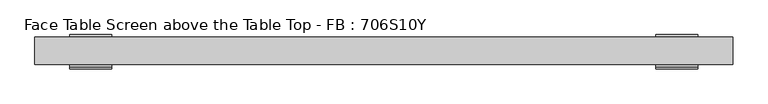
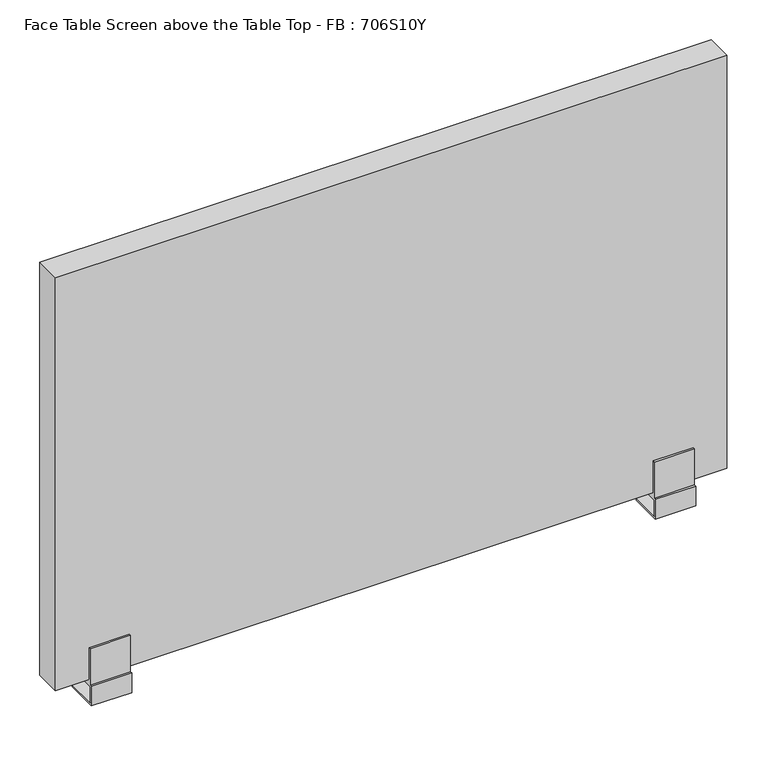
"""IFC4 building model written with IfcOpenShell, lengths in millimetres: furniture geometry, Face Table Screen above the Table Top - FB : 706S10Y."""

from ifc_helpers import new_model, si_unit, frame, origin, place, context, project, spatial, polyline, circle_curve, outline, extrude, source, transform, mapped, element, save
from ifc_brep_helpers import plane_surface, cylinder_surface, advanced_brep


def face_table_screen_above_the_table_top_fb_706s10y_b824632f(model_context):
    return source(origin(), model_context, "Body", "SolidModel", [
        advanced_brep(
        [(-425.0, 20.0, -39.4406633), (-415.0, 20.0, -39.4406633), (-415.0, 20.0, -28.0), (-425.0, 20.0, -28.0), (-450.0, 43.0, -25.0), (-450.0, -3.0, -25.0), (-390.0, -3.0, -25.0), (-390.0, 43.0, -25.0), (-450.0, -3.0, 0.0), (-450.0, 43.0, -28.0), (-450.0, -6.0, -28.0), (-450.0, -6.0, 3.0), (-450.0, -3.0, 3.0), (-450.0, -3.0, 60.0), (-450.0, 0.0, 60.0), (-450.0, 0.0, 10.0), (-450.0, 40.0, 10.0), (-450.0, 40.0, 60.0), (-450.0, 43.0, 60.0), (-450.0, 43.0, 0.0), (-390.0, -3.0, 0.0), (-390.0, 43.0, 0.0), (-390.0, 43.0, 60.0), (-390.0, 40.0, 60.0), (-390.0, 40.0, 10.0), (-390.0, 0.0, 10.0), (-390.0, 0.0, 60.0), (-390.0, -3.0, 60.0), (-390.0, -3.0, 3.0), (-390.0, -6.0, 3.0), (-390.0, -6.0, -28.0), (-390.0, 43.0, -28.0)],
        [
            (0, 1, circle_curve(frame((-420.0, 20.0, -39.4406633), z_axis=(0.0, 0.0, -1.0), x_axis=(1.0, 0.0, 0.0)), 5.0)),
            (1, 0, circle_curve(frame((-420.0, 20.0, -39.4406633), z_axis=(0.0, 0.0, -1.0), x_axis=(1.0, 0.0, 0.0)), 5.0)),
            (1, 2),
            (2, 3, circle_curve(frame((-420.0, 20.0, -28.0), z_axis=(0.0, 0.0, -1.0), x_axis=(1.0, 0.0, 0.0)), 5.0)),
            (3, 0),
            (3, 2, circle_curve(frame((-420.0, 20.0, -28.0), z_axis=(0.0, 0.0, -1.0), x_axis=(1.0, 0.0, 0.0)), 5.0)),
            (4, 5),
            (5, 6),
            (6, 7),
            (7, 4),
            (8, 5),
            (4, 9),
            (9, 10),
            (10, 11),
            (11, 12),
            (12, 13),
            (13, 14),
            (14, 15),
            (15, 16),
            (16, 17),
            (17, 18),
            (18, 19),
            (19, 8),
            (20, 21),
            (21, 22),
            (22, 23),
            (23, 24),
            (24, 25),
            (25, 26),
            (26, 27),
            (27, 28),
            (28, 29),
            (29, 30),
            (30, 31),
            (31, 7),
            (6, 20),
            (19, 21),
            (20, 8),
            (18, 22),
            (17, 23),
            (16, 24),
            (15, 25),
            (14, 26),
            (13, 27),
            (12, 28),
            (11, 29),
            (10, 30),
            (9, 31),
        ],
        [
            plane_surface(frame((-415.0, 20.0, -39.4406633), z_axis=(0.0, 0.0, -1.0), x_axis=(0.0, -1.0, 0.0))),
            cylinder_surface(frame((-420.0, 20.0, -39.4406633), z_axis=(0.0, 0.0, 1.0), x_axis=(1.0, 0.0, 0.0)), 5.0),
            plane_surface(frame((-415.0, 20.0, -25.0), z_axis=(0.0, 0.0, 1.0), x_axis=(0.0, 1.0, 0.0))),
            plane_surface(frame((-450.0, 43.0, 0.0), z_axis=(-1.0, 0.0, 0.0), x_axis=(0.0, -1.0, 0.0))),
            plane_surface(frame((-390.0, 43.0, 0.0), z_axis=(1.0, 0.0, 0.0), x_axis=(0.0, 1.0, 0.0))),
            plane_surface(frame((-390.0, -3.0, 0.0), z_axis=(0.0, 0.0, -1.0), x_axis=(-1.0, 0.0, 0.0))),
            plane_surface(frame((-390.0, 43.0, 0.0), z_axis=(0.0, 1.0, 0.0), x_axis=(-1.0, 0.0, 0.0))),
            plane_surface(frame((-390.0, 43.0, 60.0), z_axis=(0.0, 0.0, 1.0), x_axis=(-1.0, 0.0, 0.0))),
            plane_surface(frame((-390.0, 40.0, 60.0), z_axis=(0.0, -1.0, 0.0), x_axis=(-1.0, 0.0, 0.0))),
            plane_surface(frame((-390.0, 40.0, 10.0), z_axis=(0.0, 0.0, 1.0), x_axis=(-1.0, 0.0, 0.0))),
            plane_surface(frame((-390.0, 0.0, 10.0), z_axis=(0.0, 1.0, 0.0), x_axis=(-1.0, 0.0, 0.0))),
            plane_surface(frame((-390.0, 0.0, 60.0), z_axis=(0.0, 0.0, 1.0), x_axis=(-1.0, 0.0, 0.0))),
            plane_surface(frame((-390.0, -3.0, 60.0), z_axis=(0.0, -1.0, 0.0), x_axis=(-1.0, 0.0, 0.0))),
            plane_surface(frame((-390.0, -3.0, 3.0), z_axis=(0.0, 0.0, 1.0), x_axis=(-1.0, 0.0, 0.0))),
            plane_surface(frame((-390.0, -6.0, 3.0), z_axis=(0.0, -1.0, 0.0), x_axis=(-1.0, 0.0, 0.0))),
            plane_surface(frame((-390.0, -6.0, -28.0), z_axis=(0.0, 0.0, -1.0), x_axis=(-1.0, 0.0, 0.0))),
            plane_surface(frame((-390.0, 43.0, -28.0), z_axis=(0.0, 1.0, 0.0), x_axis=(-1.0, 0.0, 0.0))),
            plane_surface(frame((-390.0, -3.0, -25.0), z_axis=(0.0, 1.0, 0.0), x_axis=(-1.0, 0.0, 0.0))),
        ],
        [
            (0, [[1, 2]]),
            (1, [[-2, 3, 4, 5]]),
            (1, [[-1, -5, 6, -3]]),
            (2, [[7, 8, 9, 10]]),
            (3, [[11, -7, 12, 13, 14, 15, 16, 17, 18, 19, 20, 21, 22, 23]]),
            (4, [[24, 25, 26, 27, 28, 29, 30, 31, 32, 33, 34, 35, -9, 36]]),
            (5, [[-23, 37, -24, 38]]),
            (6, [[-22, 39, -25, -37]]),
            (7, [[-21, 40, -26, -39]]),
            (8, [[-20, 41, -27, -40]]),
            (9, [[-19, 42, -28, -41]]),
            (10, [[-18, 43, -29, -42]]),
            (11, [[-17, 44, -30, -43]]),
            (12, [[-16, 45, -31, -44]]),
            (13, [[-15, 46, -32, -45]]),
            (14, [[-14, 47, -33, -46]]),
            (15, [[-13, 48, -34, -47], [-4, -6]]),
            (16, [[-12, -10, -35, -48]]),
            (17, [[-11, -38, -36, -8]]),
        ],
    ),
        advanced_brep(
        [(415.0, 20.0, -39.4406633), (425.0, 20.0, -39.4406633), (425.0, 20.0, -28.0), (415.0, 20.0, -28.0), (390.0, 43.0, -25.0), (390.0, -3.0, -25.0), (450.0, -3.0, -25.0), (450.0, 43.0, -25.0), (390.0, -3.0, 0.0), (390.0, 43.0, -28.0), (390.0, -6.0, -28.0), (390.0, -6.0, 3.0), (390.0, -3.0, 3.0), (390.0, -3.0, 60.0), (390.0, 0.0, 60.0), (390.0, 0.0, 10.0), (390.0, 40.0, 10.0), (390.0, 40.0, 60.0), (390.0, 43.0, 60.0), (390.0, 43.0, 0.0), (450.0, -3.0, 0.0), (450.0, 43.0, 0.0), (450.0, 43.0, 60.0), (450.0, 40.0, 60.0), (450.0, 40.0, 10.0), (450.0, 0.0, 10.0), (450.0, 0.0, 60.0), (450.0, -3.0, 60.0), (450.0, -3.0, 3.0), (450.0, -6.0, 3.0), (450.0, -6.0, -28.0), (450.0, 43.0, -28.0)],
        [
            (0, 1, circle_curve(frame((420.0, 20.0, -39.4406633), z_axis=(0.0, 0.0, -1.0), x_axis=(1.0, 0.0, 0.0)), 5.0)),
            (1, 0, circle_curve(frame((420.0, 20.0, -39.4406633), z_axis=(0.0, 0.0, -1.0), x_axis=(1.0, 0.0, 0.0)), 5.0)),
            (1, 2),
            (2, 3, circle_curve(frame((420.0, 20.0, -28.0), z_axis=(0.0, 0.0, -1.0), x_axis=(1.0, 0.0, 0.0)), 5.0)),
            (3, 0),
            (3, 2, circle_curve(frame((420.0, 20.0, -28.0), z_axis=(0.0, 0.0, -1.0), x_axis=(1.0, 0.0, 0.0)), 5.0)),
            (4, 5),
            (5, 6),
            (6, 7),
            (7, 4),
            (8, 5),
            (4, 9),
            (9, 10),
            (10, 11),
            (11, 12),
            (12, 13),
            (13, 14),
            (14, 15),
            (15, 16),
            (16, 17),
            (17, 18),
            (18, 19),
            (19, 8),
            (20, 21),
            (21, 22),
            (22, 23),
            (23, 24),
            (24, 25),
            (25, 26),
            (26, 27),
            (27, 28),
            (28, 29),
            (29, 30),
            (30, 31),
            (31, 7),
            (6, 20),
            (19, 21),
            (20, 8),
            (18, 22),
            (17, 23),
            (16, 24),
            (15, 25),
            (14, 26),
            (13, 27),
            (12, 28),
            (11, 29),
            (10, 30),
            (9, 31),
        ],
        [
            plane_surface(frame((425.0, 20.0, -39.4406633), z_axis=(0.0, 0.0, -1.0), x_axis=(0.0, -1.0, 0.0))),
            cylinder_surface(frame((420.0, 20.0, -39.4406633), z_axis=(0.0, 0.0, 1.0), x_axis=(1.0, 0.0, 0.0)), 5.0),
            plane_surface(frame((425.0, 20.0, -25.0), z_axis=(0.0, 0.0, 1.0), x_axis=(0.0, 1.0, 0.0))),
            plane_surface(frame((390.0, 43.0, 0.0), z_axis=(-1.0, 0.0, 0.0), x_axis=(0.0, -1.0, 0.0))),
            plane_surface(frame((450.0, 43.0, 0.0), z_axis=(1.0, 0.0, 0.0), x_axis=(0.0, 1.0, 0.0))),
            plane_surface(frame((450.0, -3.0, 0.0), z_axis=(0.0, 0.0, -1.0), x_axis=(-1.0, 0.0, 0.0))),
            plane_surface(frame((450.0, 43.0, 0.0), z_axis=(0.0, 1.0, 0.0), x_axis=(-1.0, 0.0, 0.0))),
            plane_surface(frame((450.0, 43.0, 60.0), z_axis=(0.0, 0.0, 1.0), x_axis=(-1.0, 0.0, 0.0))),
            plane_surface(frame((450.0, 40.0, 60.0), z_axis=(0.0, -1.0, 0.0), x_axis=(-1.0, 0.0, 0.0))),
            plane_surface(frame((450.0, 40.0, 10.0), z_axis=(0.0, 0.0, 1.0), x_axis=(-1.0, 0.0, 0.0))),
            plane_surface(frame((450.0, 0.0, 10.0), z_axis=(0.0, 1.0, 0.0), x_axis=(-1.0, 0.0, 0.0))),
            plane_surface(frame((450.0, 0.0, 60.0), z_axis=(0.0, 0.0, 1.0), x_axis=(-1.0, 0.0, 0.0))),
            plane_surface(frame((450.0, -3.0, 60.0), z_axis=(0.0, -1.0, 0.0), x_axis=(-1.0, 0.0, 0.0))),
            plane_surface(frame((450.0, -3.0, 3.0), z_axis=(0.0, 0.0, 1.0), x_axis=(-1.0, 0.0, 0.0))),
            plane_surface(frame((450.0, -6.0, 3.0), z_axis=(0.0, -1.0, 0.0), x_axis=(-1.0, 0.0, 0.0))),
            plane_surface(frame((450.0, -6.0, -28.0), z_axis=(0.0, 0.0, -1.0), x_axis=(-1.0, 0.0, 0.0))),
            plane_surface(frame((450.0, 43.0, -28.0), z_axis=(0.0, 1.0, 0.0), x_axis=(-1.0, 0.0, 0.0))),
            plane_surface(frame((450.0, -3.0, -25.0), z_axis=(0.0, 1.0, 0.0), x_axis=(-1.0, 0.0, 0.0))),
        ],
        [
            (0, [[1, 2]]),
            (1, [[-2, 3, 4, 5]]),
            (1, [[-1, -5, 6, -3]]),
            (2, [[7, 8, 9, 10]]),
            (3, [[11, -7, 12, 13, 14, 15, 16, 17, 18, 19, 20, 21, 22, 23]]),
            (4, [[24, 25, 26, 27, 28, 29, 30, 31, 32, 33, 34, 35, -9, 36]]),
            (5, [[-23, 37, -24, 38]]),
            (6, [[-22, 39, -25, -37]]),
            (7, [[-21, 40, -26, -39]]),
            (8, [[-20, 41, -27, -40]]),
            (9, [[-19, 42, -28, -41]]),
            (10, [[-18, 43, -29, -42]]),
            (11, [[-17, 44, -30, -43]]),
            (12, [[-16, 45, -31, -44]]),
            (13, [[-15, 46, -32, -45]]),
            (14, [[-14, 47, -33, -46]]),
            (15, [[-13, 48, -34, -47], [-4, -6]]),
            (16, [[-12, -10, -35, -48]]),
            (17, [[-11, -38, -36, -8]]),
        ],
    ),
        extrude(outline(polyline([(500.0, 0.0), (-500.0, 0.0), (-500.0, 40.0), (500.0, 40.0), (500.0, 0.0)])), frame((0.0, 0.0, 10.0), z_axis=(0.0, 0.0, 1.0), x_axis=(1.0, 0.0, 0.0)), (0.0, 0.0, 1.0), 650.0),
    ])


if __name__ == "__main__":
    model = new_model("IFC4")
    model_context = context("Model", 3, world=origin())
    ifc_project = project(units=[si_unit("LENGTHUNIT", "METRE", prefix="MILLI")], contexts=[model_context])
    site = spatial("IfcSite", under=ifc_project)
    building = spatial("IfcBuilding", under=site)
    placement = place(None, origin())
    face_table_screen_above_the_table_top_fb_706s10y_shape = face_table_screen_above_the_table_top_fb_706s10y_b824632f(model_context)
    element("IfcFurniture", 1, ObjectType="Face Table Screen above the Table Top - FB : 706S10Y", at=placement, inside=building, context=model_context, shape_type="MappedRepresentation", body=[
        mapped(face_table_screen_above_the_table_top_fb_706s10y_shape, transform((0.0, 0.0, 0.0), x_axis=(1.0, 0.0, 0.0), y_axis=(0.0, 1.0, 0.0), z_axis=(0.0, 0.0, 1.0))),
    ])
    save(model, "model.ifc")
